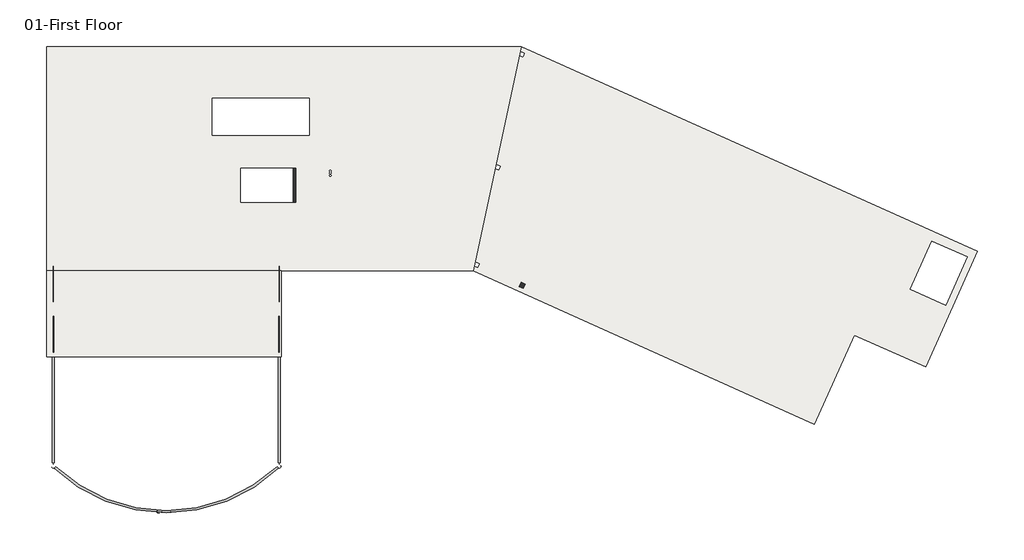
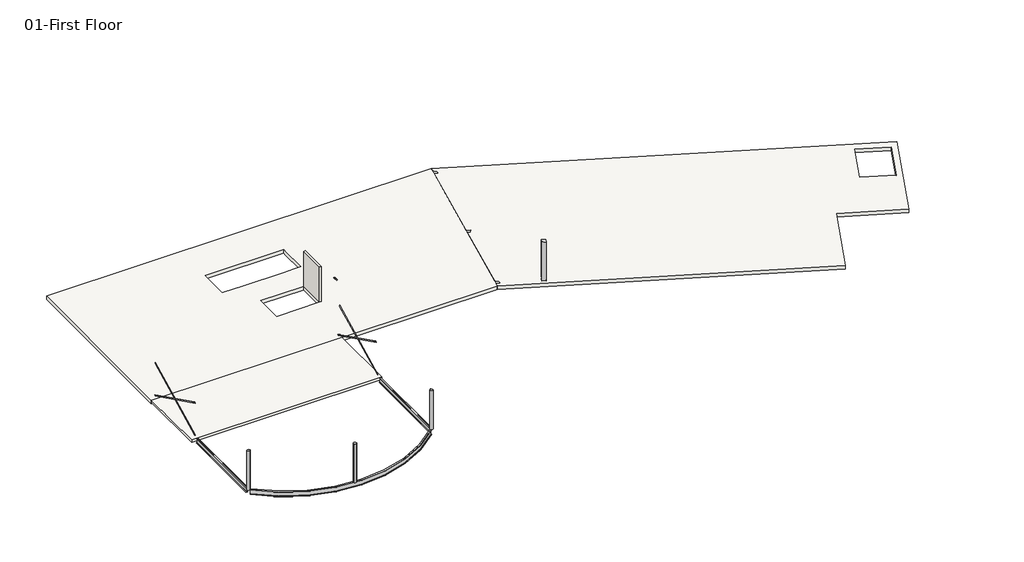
# One storey: 5 beams, 4 columns, 4 members, 3 slabs, 1 wall.
"""IFC4 building model written with IfcOpenShell, lengths in millimetres."""

from ifc_helpers import new_model, si_unit, frame, origin, place, context, project, spatial, polyline, circle_curve, outline, extrude, faceted_brep, transform, mapped, element, save
from ifc_brep_helpers import plane_surface, revolved_surface, advanced_brep
from components import w_shapes_w16x26_79f6515c, w_shapes_w16x26_bcd4aa5d, w_shapes_w16x26_ccd9a1e8, hss_round_column_hss10x_500_6a2b31e4, flat_bars_fl_3_8x4_8cd429a4, flat_bars_fl_3_8x4_80db56d9, flat_bars_fl_3_8x4_0a321cdc, flat_bars_fl_3_8x4_c289e923

model = new_model("IFC4")

# Units and contexts
model_context = context("Model", 3, world=origin())
ifc_project = project(units=[si_unit("LENGTHUNIT", "METRE", prefix="MILLI")], contexts=[model_context])

# Site, building, storey
site = spatial("IfcSite", under=ifc_project)
building = spatial("IfcBuilding", under=site)
storey = spatial("IfcBuildingStorey", under=building, Name="01-First Floor", Elevation=3352.8)

# Beams
placement = place(None, origin())
element("IfcBeam", 1, ObjectType="Concrete-Rectangular Beam : 12 x 24", at=placement, inside=storey, context=model_context, shape_type="SweptSolid", body=[
    extrude(outline(polyline([(152.4, -14147.8), (152.4, -13843.0), (6858.0, -13843.0), (6858.0, -14147.8), (152.4, -14147.8)])), frame((0.0, 0.0, 2743.2), z_axis=(0.0, 0.0, 1.0), x_axis=(1.0, 0.0, 0.0)), (0.0, 0.0, 1.0), 304.8),
])
element("IfcBeam", 2, ObjectType="Concrete-Rectangular Beam : 12 x 24", at=placement, inside=storey, context=model_context, shape_type="SweptSolid", body=[
    extrude(outline(polyline([(14846.3, -13843.0), (14846.3, -14147.8), (7162.8, -14147.8), (7162.8, -13843.0), (14846.3, -13843.0)])), frame((0.0, 0.0, 2743.2), z_axis=(0.0, 0.0, 1.0), x_axis=(1.0, 0.0, 0.0)), (0.0, 0.0, 1.0), 304.8),
])
w_shapes_w16x26_shape = w_shapes_w16x26_79f6515c(model_context)
element("IfcBeam", 3, ObjectType="W Shapes : W16X26", at=placement, inside=storey, context=model_context, shape_type="MappedRepresentation", body=[
    mapped(w_shapes_w16x26_shape, transform((14998.7, -27444.7, 3153.41), x_axis=(-0.7227923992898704, -0.691065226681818, 0.0), y_axis=(0.691065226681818, -0.7227923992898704, 0.0), z_axis=(0.0, 0.0, 1.0))),
])
w_shapes_w16x26_2_shape = w_shapes_w16x26_bcd4aa5d(model_context)
element("IfcBeam", 4, ObjectType="W Shapes : W16X26", at=placement, inside=storey, context=model_context, shape_type="MappedRepresentation", body=[
    mapped(w_shapes_w16x26_2_shape, transform((14998.7, -23723.6, 3153.41), x_axis=(0.0, -1.0, 0.0), y_axis=(1.0, 0.0, 0.0), z_axis=(0.0, 0.0, 1.0))),
])
w_shapes_w16x26_3_shape = w_shapes_w16x26_ccd9a1e8(model_context)
element("IfcBeam", 5, ObjectType="W Shapes : W16X26", at=placement, inside=storey, context=model_context, shape_type="MappedRepresentation", body=[
    mapped(w_shapes_w16x26_3_shape, transform((0.0, -23723.6, 3153.41), x_axis=(0.0, 1.0, 0.0), y_axis=(-1.0, 0.0, 0.0), z_axis=(0.0, 0.0, 1.0))),
])

# Columns
element("IfcColumn", 6, ObjectType="Concrete-Rectangular-Column : 12 x 12", at=placement, inside=storey, context=model_context, shape_type="Brep", body=[
    faceted_brep([(31086.1980425, -15213.8565854, 3352.8), (31364.2351156, -15338.7502439, 3352.8), (31239.3414571, -15616.7873171, 3352.8), (30961.3043839, -15491.8936585, 3352.8), (31086.1980425, -15213.8565854, 6705.6), (31364.2351156, -15338.7502439, 6705.6), (31364.2351156, -15338.7502439, 6400.8), (31086.1980425, -15213.8565854, 6400.8), (31239.3414571, -15616.7873171, 6705.6), (31239.3414571, -15616.7873171, 6400.8), (30961.3043839, -15491.8936585, 6705.6), (30961.3043839, -15491.8936585, 6400.8)], [[[0, 1, 2, 3]], [[4, 5, 6, 1, 0, 7]], [[5, 8, 9, 2, 1, 6]], [[8, 10, 11, 3, 2, 9]], [[10, 4, 7, 0, 3, 11]], [[4, 10, 8, 5]]]),
])
hss_round_column_hss10x_500_shape = hss_round_column_hss10x_500_6a2b31e4(model_context)
element("IfcColumn", 7, ObjectType="HSS Round-Column : HSS10X.500", at=placement, inside=storey, context=model_context, shape_type="MappedRepresentation", body=[
    mapped(hss_round_column_hss10x_500_shape, transform((0.0, -27444.7, 0.0), x_axis=(1.0, 0.0, 0.0), y_axis=(0.0, 1.0, 0.0), z_axis=(0.0, 0.0, 1.0))),
])
element("IfcColumn", 8, ObjectType="HSS Round-Column : HSS10X.500", at=placement, inside=storey, context=model_context, shape_type="MappedRepresentation", body=[
    mapped(hss_round_column_hss10x_500_shape, transform((7010.4, -30441.9, 0.0), x_axis=(1.0, 0.0, 0.0), y_axis=(0.0, 1.0, 0.0), z_axis=(0.0, 0.0, 1.0))),
])
element("IfcColumn", 9, ObjectType="HSS Round-Column : HSS10X.500", at=placement, inside=storey, context=model_context, shape_type="MappedRepresentation", body=[
    mapped(hss_round_column_hss10x_500_shape, transform((14998.7, -27444.7, 0.0), x_axis=(1.0, 0.0, 0.0), y_axis=(0.0, 1.0, 0.0), z_axis=(0.0, 0.0, 1.0))),
])

# Members
flat_bars_fl_3_8x4_shape = flat_bars_fl_3_8x4_8cd429a4(model_context)
element("IfcMember", 10, ObjectType="Flat Bars : FL 3/8X4", at=placement, inside=storey, context=model_context, shape_type="MappedRepresentation", body=[
    mapped(flat_bars_fl_3_8x4_shape, transform((14989.175, -16998.95, 4850.13), x_axis=(0.0, 0.8949563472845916, 0.44615371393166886), y_axis=(-1.0, 0.0, 0.0), z_axis=(0.0, -0.44615371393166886, 0.8949563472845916))),
])
flat_bars_fl_3_8x4_2_shape = flat_bars_fl_3_8x4_80db56d9(model_context)
element("IfcMember", 11, ObjectType="Flat Bars : FL 3/8X4", at=placement, inside=storey, context=model_context, shape_type="MappedRepresentation", body=[
    mapped(flat_bars_fl_3_8x4_2_shape, transform((14998.7, -16998.95, 4850.13), x_axis=(0.0, -0.8949563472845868, 0.4461537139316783), y_axis=(1.0, 0.0, 0.0), z_axis=(0.0, 0.4461537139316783, 0.8949563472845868))),
])
flat_bars_fl_3_8x4_3_shape = flat_bars_fl_3_8x4_0a321cdc(model_context)
element("IfcMember", 12, ObjectType="Flat Bars : FL 3/8X4", at=placement, inside=storey, context=model_context, shape_type="MappedRepresentation", body=[
    mapped(flat_bars_fl_3_8x4_3_shape, transform((9.525, -16998.95, 4850.13), x_axis=(0.0, 0.8949563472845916, 0.44615371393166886), y_axis=(-1.0, 0.0, 0.0), z_axis=(0.0, -0.44615371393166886, 0.8949563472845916))),
])
flat_bars_fl_3_8x4_4_shape = flat_bars_fl_3_8x4_c289e923(model_context)
element("IfcMember", 13, ObjectType="Flat Bars : FL 3/8X4", at=placement, inside=storey, context=model_context, shape_type="MappedRepresentation", body=[
    mapped(flat_bars_fl_3_8x4_4_shape, transform((0.0, -16998.95, 4850.13), x_axis=(0.0, -0.894956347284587, 0.44615371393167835), y_axis=(1.0, 0.0, 0.0), z_axis=(0.0, 0.44615371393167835, 0.894956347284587))),
])

# Slabs
element("IfcSlab", 14, ObjectType="RC Composite Slab 8\"", at=placement, inside=storey, context=model_context, shape_type="SweptSolid", body=[
    extrude(outline(polyline([(15151.1, -20154.9), (-457.2, -20154.9), (-457.2, -14452.6), (15151.1, -14452.6), (15151.1, -20154.9)])), frame((0.0, 0.0, 3149.6), z_axis=(0.0, 0.0, 1.0), x_axis=(1.0, 0.0, 0.0)), (0.0, 0.0, 1.0), 203.2),
])
element("IfcSlab", 15, ObjectType="RC Slab 12\"", at=placement, inside=storey, context=model_context, shape_type="AdvancedBrep", body=[
    advanced_brep(
    [(-457.2, 457.2, 3048.0), (31098.7387393, 457.2, 3048.0), (27903.7815965, -14452.6, 3048.0), (-457.2, -14452.6, 3048.0), (17005.3, -2984.5, 3048.0), (10553.7, -2984.5, 3048.0), (10553.7, -5422.9, 3048.0), (10858.5, -5422.9, 3048.0), (17005.3, -5422.9, 3048.0), (17005.3, -5168.9, 3048.0), (17005.3, -3289.3, 3048.0), (15951.2, -7633.3081651, 3048.0), (12446.0, -7633.3081651, 3048.0), (12446.0, -9893.3, 3048.0), (15951.2, -9893.3, 3048.0), (18347.8020543, -8109.4381113, 3048.0), (18449.4020543, -8109.4381113, 3048.0), (18347.8020543, -7957.0381113, 3048.0), (18449.4020543, -7957.0381113, 3048.0), (18347.8020543, -7804.6381113, 3048.0), (18449.4020543, -7804.6381113, 3048.0), (31098.7387393, 457.2, 3352.8), (-457.2, 457.2, 3352.8), (-457.2, -14452.6, 3352.8), (15151.1, -14452.6, 3352.8), (27903.7815965, -14452.6, 3352.8), (10553.7, -2984.5, 3352.8), (17005.3, -2984.5, 3352.8), (17005.3, -3289.3, 3352.8), (17005.3, -5168.9, 3352.8), (17005.3, -5422.9, 3352.8), (16522.7, -5422.9, 3352.8), (15608.3, -5422.9, 3352.8), (14389.1, -5422.9, 3352.8), (13474.7, -5422.9, 3352.8), (12242.8, -5422.9, 3352.8), (11328.4, -5422.9, 3352.8), (10553.7, -5422.9, 3352.8), (12446.0, -7633.3081651, 3352.8), (15951.2, -7633.3081651, 3352.8), (15951.2, -9893.3, 3352.8), (12446.0, -9893.3, 3352.8), (18449.4020543, -8109.4381113, 3352.8), (18347.8020543, -8109.4381113, 3352.8), (18449.4020543, -7957.0381113, 3352.8), (18347.8020543, -7957.0381113, 3352.8), (18449.4020543, -7804.6381113, 3352.8), (18347.8020543, -7804.6381113, 3352.8), (-457.2, -14452.6, 3149.6)],
    [
        (0, 1),
        (1, 2),
        (2, 3),
        (3, 0),
        (4, 5),
        (5, 6),
        (6, 7),
        (7, 8),
        (8, 9),
        (9, 10),
        (10, 4),
        (11, 12),
        (12, 13),
        (13, 14),
        (14, 11),
        (15, 16, circle_curve(frame((18398.6020543, -8109.4381113, 3048.0), z_axis=(0.0, 0.0, 1.0), x_axis=(1.0, 0.0, 0.0)), 50.8)),
        (16, 15, circle_curve(frame((18398.6020543, -8109.4381113, 3048.0), z_axis=(0.0, 0.0, 1.0), x_axis=(1.0, 0.0, 0.0)), 50.8)),
        (17, 18, circle_curve(frame((18398.6020543, -7957.0381113, 3048.0), z_axis=(0.0, 0.0, 1.0), x_axis=(1.0, 0.0, 0.0)), 50.8)),
        (18, 17, circle_curve(frame((18398.6020543, -7957.0381113, 3048.0), z_axis=(0.0, 0.0, 1.0), x_axis=(1.0, 0.0, 0.0)), 50.8)),
        (19, 20, circle_curve(frame((18398.6020543, -7804.6381113, 3048.0), z_axis=(0.0, 0.0, 1.0), x_axis=(1.0, 0.0, 0.0)), 50.8)),
        (20, 19, circle_curve(frame((18398.6020543, -7804.6381113, 3048.0), z_axis=(0.0, 0.0, 1.0), x_axis=(1.0, 0.0, 0.0)), 50.8)),
        (21, 22),
        (22, 23),
        (23, 24),
        (24, 25),
        (25, 21),
        (26, 27),
        (27, 28),
        (28, 29),
        (29, 30),
        (30, 31),
        (31, 32),
        (32, 33),
        (33, 34),
        (34, 35),
        (35, 36),
        (36, 37),
        (37, 26),
        (38, 39),
        (39, 40),
        (40, 41),
        (41, 38),
        (42, 43, circle_curve(frame((18398.6020543, -8109.4381113, 3352.8), z_axis=(0.0, 0.0, -1.0), x_axis=(1.0, 0.0, 0.0)), 50.8)),
        (43, 42, circle_curve(frame((18398.6020543, -8109.4381113, 3352.8), z_axis=(0.0, 0.0, -1.0), x_axis=(1.0, 0.0, 0.0)), 50.8)),
        (44, 45, circle_curve(frame((18398.6020543, -7957.0381113, 3352.8), z_axis=(0.0, 0.0, -1.0), x_axis=(1.0, 0.0, 0.0)), 50.8)),
        (45, 44, circle_curve(frame((18398.6020543, -7957.0381113, 3352.8), z_axis=(0.0, 0.0, -1.0), x_axis=(1.0, 0.0, 0.0)), 50.8)),
        (46, 47, circle_curve(frame((18398.6020543, -7804.6381113, 3352.8), z_axis=(0.0, 0.0, -1.0), x_axis=(1.0, 0.0, 0.0)), 50.8)),
        (47, 46, circle_curve(frame((18398.6020543, -7804.6381113, 3352.8), z_axis=(0.0, 0.0, -1.0), x_axis=(1.0, 0.0, 0.0)), 50.8)),
        (0, 22),
        (21, 1),
        (25, 2),
        (23, 48),
        (48, 3),
        (4, 27),
        (26, 5),
        (37, 6),
        (30, 8),
        (11, 39),
        (38, 12),
        (41, 13),
        (40, 14),
        (15, 43),
        (42, 16),
        (17, 45),
        (44, 18),
        (19, 47),
        (46, 20),
    ],
    [
        plane_surface(frame((0.0, 457.2, 3048.0), z_axis=(0.0, 0.0, -1.0), x_axis=(1.0, 0.0, 0.0))),
        plane_surface(frame((0.0, 457.2, 3352.8), z_axis=(0.0, 0.0, 1.0), x_axis=(-1.0, 0.0, 0.0))),
        plane_surface(frame((-457.2, 457.2, 3048.0), z_axis=(0.0, 1.0, 0.0), x_axis=(0.0, 0.0, 1.0))),
        plane_surface(frame((31098.7387393, 457.2, 3048.0), z_axis=(0.9778024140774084, -0.2095290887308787, 0.0), x_axis=(0.0, 0.0, 1.0))),
        plane_surface(frame((27903.7815965, -14452.6, 3048.0), z_axis=(0.0, -1.0, 0.0), x_axis=(0.0, 0.0, 1.0))),
        plane_surface(frame((-457.2, -14452.6, 3048.0), z_axis=(-1.0, 0.0, 0.0), x_axis=(0.0, 0.0, 1.0))),
        plane_surface(frame((17005.3, -2984.5, 4572.0), z_axis=(0.0, -1.0, 0.0), x_axis=(0.0, 0.0, -1.0))),
        plane_surface(frame((10553.7, -2984.5, 4572.0), z_axis=(1.0, 0.0, 0.0), x_axis=(0.0, 0.0, -1.0))),
        plane_surface(frame((10553.7, -5422.9, 4572.0), z_axis=(0.0, 1.0, 0.0), x_axis=(0.0, 0.0, -1.0))),
        plane_surface(frame((17005.3, -5422.9, 4572.0), z_axis=(-1.0, 0.0, 0.0), x_axis=(0.0, 0.0, -1.0))),
        plane_surface(frame((15951.2, -7633.3081651, 4572.0), z_axis=(0.0, -1.0, 0.0), x_axis=(0.0, 0.0, -1.0))),
        plane_surface(frame((12446.0, -7633.3081651, 4572.0), z_axis=(1.0, 0.0, 0.0), x_axis=(0.0, 0.0, -1.0))),
        plane_surface(frame((12446.0, -9893.3, 4572.0), z_axis=(0.0, 1.0, 0.0), x_axis=(0.0, 0.0, -1.0))),
        plane_surface(frame((15951.2, -9893.3, 4572.0), z_axis=(-1.0, 0.0, 0.0), x_axis=(0.0, 0.0, -1.0))),
        revolved_surface(polyline([(18449.4020543, -8109.4381113, 3352.8), (18449.4020543, -8109.4381113, 3048.0)]), (18398.6020543, -8109.4381113, 2743.2), (0.0, 0.0, 1.0)),
        revolved_surface(polyline([(18449.4020543, -7957.0381113, 3352.8), (18449.4020543, -7957.0381113, 3048.0)]), (18398.6020543, -7957.0381113, 2743.2), (0.0, 0.0, 1.0)),
        revolved_surface(polyline([(18449.4020543, -7804.6381113, 3352.8), (18449.4020543, -7804.6381113, 3048.0)]), (18398.6020543, -7804.6381113, 2743.2), (0.0, 0.0, 1.0)),
    ],
    [
        (0, [[1, 2, 3, 4], [5, 6, 7, 8, 9, 10, 11], [12, 13, 14, 15], [16, 17], [18, 19], [20, 21]]),
        (1, [[22, 23, 24, 25, 26], [27, 28, 29, 30, 31, 32, 33, 34, 35, 36, 37, 38], [39, 40, 41, 42], [43, 44], [45, 46], [47, 48]]),
        (2, [[-1, 49, -22, 50]]),
        (3, [[-2, -50, -26, 51]]),
        (4, [[-3, -51, -25, -24, 52, 53]]),
        (5, [[-4, -53, -52, -23, -49]]),
        (6, [[54, -27, 55, -5]]),
        (7, [[-55, -38, 56, -6]]),
        (8, [[-56, -37, -36, -35, -34, -33, -32, -31, 57, -8, -7]]),
        (9, [[-54, -11, -10, -9, -57, -30, -29, -28]]),
        (10, [[58, -39, 59, -12]]),
        (11, [[-59, -42, 60, -13]]),
        (12, [[-60, -41, 61, -14]]),
        (13, [[-58, -15, -61, -40]]),
        (14, [[62, -43, 63, -16]]),
        (14, [[-62, -17, -63, -44]]),
        (15, [[64, -45, 65, -18]]),
        (15, [[-64, -19, -65, -46]]),
        (16, [[66, -47, 67, -20]]),
        (16, [[-66, -21, -67, -48]]),
    ],
),
])
element("IfcSlab", 16, ObjectType="RC Slab 12\"", at=placement, inside=storey, context=model_context, shape_type="Brep", body=[
    faceted_brep([(61413.0546278, -13159.9258537, 3048.0), (57962.8673107, -20840.7, 3048.0), (53236.2370668, -18717.5078049, 3048.0), (50577.0429205, -24637.3804878, 3048.0), (27903.7815965, -14452.6, 3048.0), (27969.0988162, -14147.786308, 3048.0), (28217.3432689, -14259.3121951, 3048.0), (28342.2369275, -13981.275122, 3048.0), (28034.4045592, -13843.0124873, 3048.0), (29359.7488162, -7658.086308, 3048.0), (29607.9932689, -7769.6121951, 3048.0), (29732.8869275, -7491.575122, 3048.0), (29425.0545592, -7353.3124873, 3048.0), (30968.1131019, -152.386308, 3048.0), (31216.3575546, -263.9121951, 3048.0), (31341.2512132, 14.124878, 3048.0), (31033.4188449, 152.3875127, 3048.0), (31098.7387393, 457.2, 3048.0), (59309.9346278, -16726.0858537, 3048.0), (60746.211701, -13528.6595122, 3048.0), (58382.896579, -12467.0634146, 3048.0), (56946.6195059, -15664.4897561, 3048.0), (31364.2351156, -15338.7502439, 3048.0), (31086.1980425, -15213.8565854, 3048.0), (30961.3043839, -15491.8936585, 3048.0), (31239.3414571, -15616.7873171, 3048.0), (57962.8673107, -20840.7, 3352.8), (61413.0546278, -13159.9258537, 3352.8), (31098.7387393, 457.2, 3352.8), (31033.4244536, 152.4, 3352.8), (31341.2512132, 14.124878, 3352.8), (31216.3575546, -263.9121951, 3352.8), (30968.1131019, -152.386308, 3352.8), (29425.0601679, -7353.3, 3352.8), (29732.8869275, -7491.575122, 3352.8), (29607.9932689, -7769.6121951, 3352.8), (29359.7488162, -7658.086308, 3352.8), (28034.4101679, -13843.0, 3352.8), (28342.2369275, -13981.275122, 3352.8), (28217.3432689, -14259.3121951, 3352.8), (27969.0988162, -14147.786308, 3352.8), (27903.7815965, -14452.6, 3352.8), (50577.0429205, -24637.3804878, 3352.8), (53236.2370668, -18717.5078049, 3352.8), (60746.211701, -13528.6595122, 3352.8), (59309.9346278, -16726.0858537, 3352.8), (56946.6195059, -15664.4897561, 3352.8), (58382.896579, -12467.0634146, 3352.8), (31086.1980425, -15213.8565854, 3352.8), (31364.2351156, -15338.7502439, 3352.8), (31239.3414571, -15616.7873171, 3352.8), (30961.3043839, -15491.8936585, 3352.8)], [[[0, 1, 2, 3, 4, 5, 6, 7, 8, 9, 10, 11, 12, 13, 14, 15, 16, 17], [18, 19, 20, 21], [22, 23, 24, 25]], [[26, 27, 28, 29, 30, 31, 32, 33, 34, 35, 36, 37, 38, 39, 40, 41, 42, 43], [44, 45, 46, 47], [48, 49, 50, 51]], [[1, 0, 27, 26]], [[2, 1, 26, 43]], [[3, 2, 43, 42]], [[4, 3, 42, 41]], [[4, 41, 40, 5]], [[28, 17, 16, 29]], [[8, 37, 36, 9]], [[32, 13, 12, 33]], [[0, 17, 28, 27]], [[7, 38, 37, 8]], [[38, 7, 6, 39]], [[39, 6, 5, 40]], [[15, 30, 29, 16]], [[30, 15, 14, 31]], [[31, 14, 13, 32]], [[11, 34, 33, 12]], [[34, 11, 10, 35]], [[35, 10, 9, 36]], [[18, 45, 44, 19]], [[19, 44, 47, 20]], [[20, 47, 46, 21]], [[45, 18, 21, 46]], [[22, 49, 48, 23]], [[49, 22, 25, 50]], [[50, 25, 24, 51]], [[51, 24, 23, 48]]]),
])

# Wall
element("IfcWall", 17, ObjectType="6\" Blockwork with render", at=placement, inside=storey, context=model_context, shape_type="SweptSolid", body=[
    extrude(outline(polyline([(16103.6, -7632.7), (16103.6, -9893.3), (15951.2, -9893.3), (15951.2, -7632.7), (16103.6, -7632.7)])), frame((0.0, 0.0, 3352.8), z_axis=(0.0, 0.0, 1.0), x_axis=(1.0, 0.0, 0.0)), (0.0, 0.0, 1.0), 3048.0),
])

save(model, "model.ifc")
